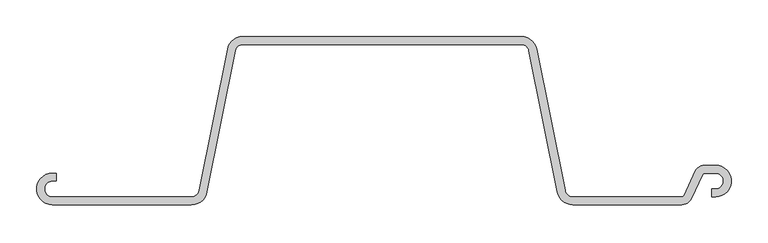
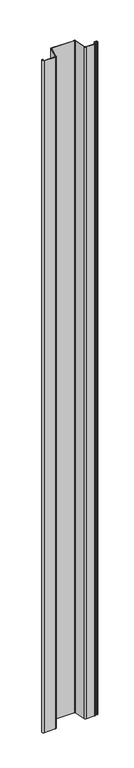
"""IFC4 building model written with IfcOpenShell, lengths in millimetres: proxy geometry, 鋼矢板10H型 : 鋼矢板10H型."""

from ifc_helpers import new_model, si_unit, point, frame, frame_2d, origin, place, context, project, spatial, polyline, circle_curve, trimmed, segment, composite_curve, outline, extrude, source, transform, mapped, element, save


def generic_models_dd665d03(model_context):
    return source(origin(), model_context, "Body", "SweptSolid", [
        extrude(outline(composite_curve([segment(trimmed(circle_curve(frame_2d((409.1972607, -101.1142857)), 13.8857143), [point((421.7819917, -106.9826421))], [point((409.1972607, -115.0))], False, "CARTESIAN"), True, "CONTINUOUS"), segment(polyline([(409.1972607, -115.0), (260.2008232, -115.0)]), True, "CONTINUOUS"), segment(trimmed(circle_curve(frame_2d((260.2008232, -93.4)), 21.6), [point((260.2008232, -115.0))], [point((239.0202806, -97.6361085))], False, "CARTESIAN"), True, "CONTINUOUS"), segment(polyline([(239.0202806, -97.6361085), (200.3894481, 95.5180543)]), True, "CONTINUOUS"), segment(trimmed(circle_curve(frame_2d((189.7991768, 93.4)), 10.8), [point((200.3894481, 95.5180543))], [point((189.7991768, 104.2))], True, "CARTESIAN"), True, "CONTINUOUS"), segment(polyline([(189.7991768, 104.2), (-189.7991768, 104.2)]), True, "CONTINUOUS"), segment(trimmed(circle_curve(frame_2d((-189.7991768, 93.4)), 10.8), [point((-189.7991768, 104.2))], [point((-200.3894481, 95.5180543))], True, "CARTESIAN"), True, "CONTINUOUS"), segment(polyline([(-200.3894481, 95.5180543), (-239.0202806, -97.6361085)]), True, "CONTINUOUS"), segment(trimmed(circle_curve(frame_2d((-260.2008232, -93.4)), 21.6), [point((-239.0202806, -97.6361085))], [point((-260.2008232, -115.0))], False, "CARTESIAN"), True, "CONTINUOUS"), segment(polyline([(-260.2008232, -115.0), (-450.0, -115.0)]), True, "CONTINUOUS"), segment(trimmed(circle_curve(frame_2d((-450.0, -93.4)), 21.6), [point((-450.0, -115.0))], [point((-450.0, -71.8))], False, "CARTESIAN"), True, "CONTINUOUS"), segment(polyline([(-450.0, -71.8), (-445.0, -71.8), (-445.0, -82.6), (-450.0, -82.6)]), True, "CONTINUOUS"), segment(trimmed(circle_curve(frame_2d((-450.0, -93.4)), 10.8), [point((-450.0, -82.6))], [point((-450.0, -104.2))], True, "CARTESIAN"), True, "CONTINUOUS"), segment(polyline([(-450.0, -104.2), (-260.2008232, -104.2)]), True, "CONTINUOUS"), segment(trimmed(circle_curve(frame_2d((-260.2008232, -93.4)), 10.8), [point((-260.2008232, -104.2))], [point((-249.6105519, -95.5180543))], True, "CARTESIAN"), True, "CONTINUOUS"), segment(polyline([(-249.6105519, -95.5180543), (-210.9797194, 97.6361085)]), True, "CONTINUOUS"), segment(trimmed(circle_curve(frame_2d((-189.7991768, 93.4)), 21.6), [point((-210.9797194, 97.6361085))], [point((-189.7991768, 115.0))], False, "CARTESIAN"), True, "CONTINUOUS"), segment(polyline([(-189.7991768, 115.0), (189.7991768, 115.0)]), True, "CONTINUOUS"), segment(trimmed(circle_curve(frame_2d((189.7991768, 93.4)), 21.6), [point((189.7991768, 115.0))], [point((210.9797194, 97.6361085))], False, "CARTESIAN"), True, "CONTINUOUS"), segment(polyline([(210.9797194, 97.6361085), (249.6105519, -95.5180543)]), True, "CONTINUOUS"), segment(trimmed(circle_curve(frame_2d((260.2008232, -93.4)), 10.8), [point((249.6105519, -95.5180543))], [point((260.2008232, -104.2))], True, "CARTESIAN"), True, "CONTINUOUS"), segment(polyline([(260.2008232, -104.2), (409.1972607, -104.2)]), True, "CONTINUOUS"), segment(trimmed(circle_curve(frame_2d((409.1972607, -101.1142857)), 3.0857143), [point((409.1972607, -104.2))], [point((411.9938676, -102.4183649))], True, "CARTESIAN"), True, "CONTINUOUS"), segment(polyline([(411.9938676, -102.4183649), (427.569013, -69.0173579)]), True, "CONTINUOUS"), segment(trimmed(circle_curve(frame_2d((440.153744, -74.8857143)), 13.8857143), [point((427.569013, -69.0173579))], [point((440.153744, -61.0))], False, "CARTESIAN"), True, "CONTINUOUS"), segment(polyline([(440.153744, -61.0), (455.0, -61.0)]), True, "CONTINUOUS"), segment(trimmed(circle_curve(frame_2d((455.0, -82.6)), 21.6), [point((455.0, -61.0))], [point((455.0, -104.2))], False, "CARTESIAN"), True, "CONTINUOUS"), segment(polyline([(455.0, -104.2), (450.0, -104.2), (450.0, -93.4), (455.0, -93.4)]), True, "CONTINUOUS"), segment(trimmed(circle_curve(frame_2d((455.0, -82.6)), 10.8), [point((455.0, -93.4))], [point((455.0, -71.8))], True, "CARTESIAN"), True, "CONTINUOUS"), segment(polyline([(455.0, -71.8), (440.153744, -71.8)]), True, "CONTINUOUS"), segment(trimmed(circle_curve(frame_2d((440.153744, -74.8857143)), 3.0857143), [point((440.153744, -71.8))], [point((437.3571371, -73.5816351))], True, "CARTESIAN"), True, "CONTINUOUS"), segment(polyline([(437.3571371, -73.5816351), (421.7819917, -106.9826421)]), True, "CONTINUOUS")], self_intersect=False)), frame((0.0, 0.0, -12000.0), z_axis=(0.0, 0.0, 1.0), x_axis=(1.0, 0.0, 0.0)), (0.0, 0.0, 1.0), 12000.0),
    ])


if __name__ == "__main__":
    model = new_model("IFC4")
    model_context = context("Model", 3, world=origin())
    ifc_project = project(units=[si_unit("LENGTHUNIT", "METRE", prefix="MILLI")], contexts=[model_context])
    site = spatial("IfcSite", under=ifc_project)
    building = spatial("IfcBuilding", under=site)
    placement = place(None, origin())
    generic_models_shape = generic_models_dd665d03(model_context)
    element("IfcBuildingElementProxy", 1, Name="鋼矢板10H型 : 鋼矢板10H型", ObjectType="鋼矢板10H型 : 鋼矢板10H型", at=placement, inside=building, context=model_context, shape_type="MappedRepresentation", body=[
        mapped(generic_models_shape, transform((0.0, 0.0, 0.0), x_axis=(1.0, 0.0, 0.0), y_axis=(0.0, 1.0, 0.0), z_axis=(0.0, 0.0, 1.0))),
    ])
    save(model, "model.ifc")
